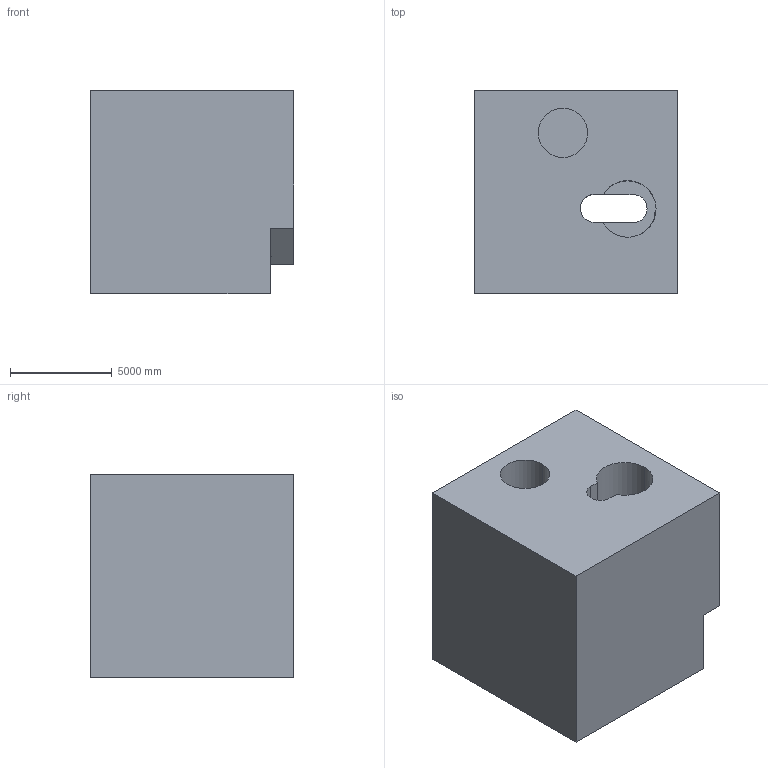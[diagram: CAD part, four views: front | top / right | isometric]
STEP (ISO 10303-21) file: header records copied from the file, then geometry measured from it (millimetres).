
FILE_DESCRIPTION (( 'STEP AP203' ), '1' );
FILE_NAME ('595.STEP', '2022-07-29T11:59:58', ( 'user' ), ( '' ), 'SwSTEP 2.0', 'SolidWorks 2021', '' );
FILE_SCHEMA (( 'CONFIG_CONTROL_DESIGN' ));
Length unit declared in the file: centimetre
Products named in the file (1): 595
Bounding box: 10000 x 10000 x 10000 mm (x, y, z)
Volume: 875586435892.4 mm3; surface area: 737147586.9 mm2
Topology: 1 solids, 1 shells, 38 faces, 114 edges, 76 vertices
Faces by surface type: plane 29, cylinder 9
Entity records: 1367 total; most frequent: CARTESIAN_POINT 265, ORIENTED_EDGE 228, DIRECTION 200, EDGE_CURVE 114, VECTOR 82, LINE 82, VERTEX_POINT 76, AXIS2_PLACEMENT_3D 59
